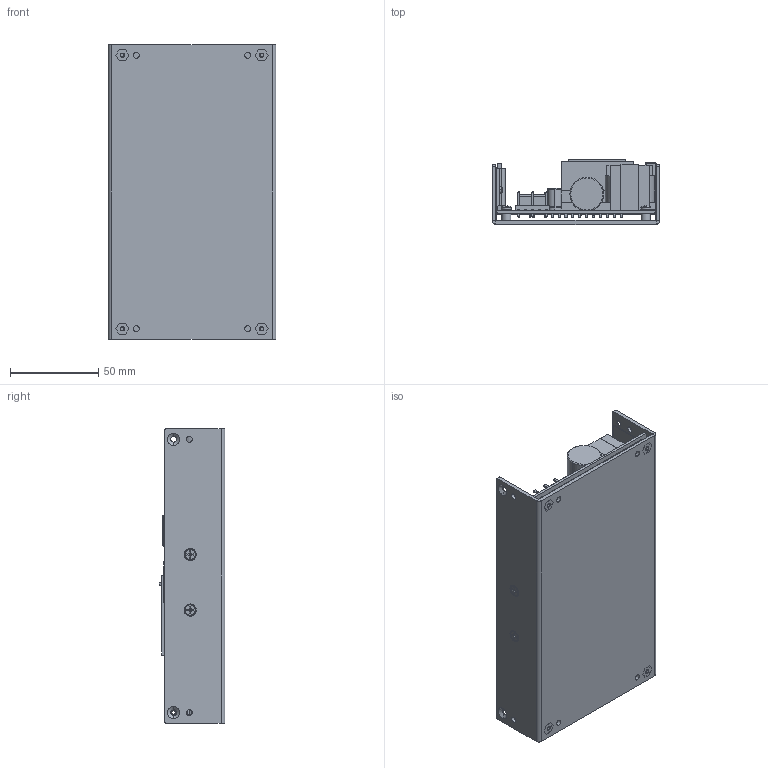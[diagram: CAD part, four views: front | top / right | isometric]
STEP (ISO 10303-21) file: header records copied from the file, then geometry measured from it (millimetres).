
FILE_DESCRIPTION (( 'STEP AP203' ), '1' );
FILE_NAME ('SNP-P30x.STEP', '2015-06-11T00:27:00', ( 'mech1' ), ( '' ), 'SwSTEP 2.0', 'SolidWorks 2014', '' );
FILE_SCHEMA (( 'CONFIG_CONTROL_DESIGN' ));
Length unit declared in the file: millimetre
Products named in the file (21): 850-P3X; 201-b033; 390-P302; 360-P30; SNP-P30x; 800-C3PW+TUBE; 242-pXX; 800-t22m; SNP-PCB; 780-s009; 790-913X; 790-1S3C; 890-CA26; 790-1S6X; 800-P301; 831-UP31; 710-DB10; 710-B3P5; 832-UP33; 零件1^SNP-P30H; 710-VH12
Assembly tree (31 placements, depth 3):
  SNP-P30x
    831-UP31
    832-UP33
    SNP-PCB
      850-P3X
      360-P30
      242-pXX
    790-913X  x4
    890-CA26  x3
    800-P301
    710-B3P5
    710-VH12
    390-P302
    800-C3PW+TUBE
    800-t22m
    780-s009  x2
    790-1S3C
    790-1S6X  x3
    710-DB10
    零件1^SNP-P30H
    201-b033  x4
Bounding box: 95 x 37.1 x 167 mm (x, y, z)
Volume: 171459.1 mm3; surface area: 171131.3 mm2
Topology: 59 solids, 59 shells, 2002 faces, 4947 edges, 3004 vertices
Faces by surface type: plane 1062, bspline 411, cylinder 351, sphere 88, torus 56, cone 34
Entity records: 47634 total; most frequent: CARTESIAN_POINT 13101, ORIENTED_EDGE 6806, DIRECTION 6201, EDGE_CURVE 3403, VECTOR 2387, LINE 2387, VERTEX_POINT 2110, AXIS2_PLACEMENT_3D 1907
